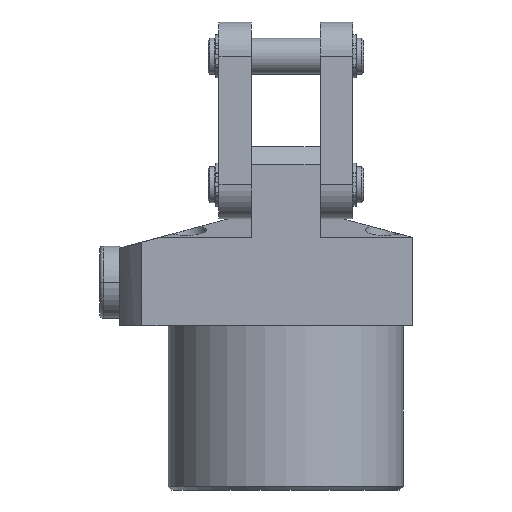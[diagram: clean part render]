
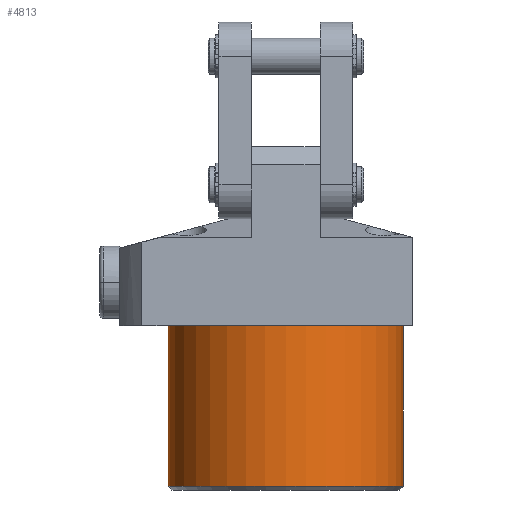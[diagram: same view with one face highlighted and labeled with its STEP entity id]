
A CAD part, front view. The second image highlights one B-rep face of the part: STEP entity #4813.
In plain terms, the highlighted cylindrical face has radius 32.5 mm (diameter 65 mm), a partial arc.
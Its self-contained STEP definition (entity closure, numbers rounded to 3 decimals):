
#732 = LINE ( 'NONE', #2026, #2159 ) ;
#1132 = VERTEX_POINT ( 'NONE', #4381 ) ;
#1339 = DIRECTION ( 'NONE',  ( 0., 0., -1. ) ) ;
#1426 = AXIS2_PLACEMENT_3D ( 'NONE', #1602, #1592, #1552 ) ;
#1450 = AXIS2_PLACEMENT_3D ( 'NONE', #5071, #5125, #5090 ) ;
#1552 = DIRECTION ( 'NONE',  ( 1., 0., 0. ) ) ;
#1592 = DIRECTION ( 'NONE',  ( 0., 0., 1. ) ) ;
#1602 = CARTESIAN_POINT ( 'NONE',  ( 0., 0., 45.5 ) ) ;
#2026 = CARTESIAN_POINT ( 'NONE',  ( 32.5, 0., 45.5 ) ) ;
#2159 = VECTOR ( 'NONE', #1339, 1000. ) ;
#2480 = EDGE_CURVE ( 'NONE', #5215, #5195, #732, .T. ) ;
#2503 = VECTOR ( 'NONE', #3098, 1000. ) ;
#2687 = EDGE_LOOP ( 'NONE', ( #6288, #6277, #5589, #6104 ) ) ;
#2923 = VERTEX_POINT ( 'NONE', #6623 ) ;
#3098 = DIRECTION ( 'NONE',  ( 0., 0., -1. ) ) ;
#3169 = CARTESIAN_POINT ( 'NONE',  ( -32.5, 0., 45.5 ) ) ;
#3723 = CARTESIAN_POINT ( 'NONE',  ( 32.5, 0., 45.5 ) ) ;
#3727 = CARTESIAN_POINT ( 'NONE',  ( 32.5, 0., 1. ) ) ;
#3908 = CIRCLE ( 'NONE', #6516, 32.5 ) ;
#4381 = CARTESIAN_POINT ( 'NONE',  ( -32.5, 0., 45.5 ) ) ;
#4605 = DIRECTION ( 'NONE',  ( 1., 0., 0. ) ) ;
#4618 = DIRECTION ( 'NONE',  ( 0., 0., 1. ) ) ;
#4632 = CARTESIAN_POINT ( 'NONE',  ( 0., 0., 1. ) ) ;
#4813 = ADVANCED_FACE ( 'NONE', ( #7457 ), #7086, .T. ) ;
#5071 = CARTESIAN_POINT ( 'NONE',  ( 0., 0., 45.5 ) ) ;
#5090 = DIRECTION ( 'NONE',  ( -1., 0., 0. ) ) ;
#5125 = DIRECTION ( 'NONE',  ( 0., 0., -1. ) ) ;
#5195 = VERTEX_POINT ( 'NONE', #3727 ) ;
#5215 = VERTEX_POINT ( 'NONE', #3723 ) ;
#5375 = EDGE_CURVE ( 'NONE', #1132, #2923, #5695, .T. ) ;
#5589 = ORIENTED_EDGE ( 'NONE', *, *, #5375, .T. ) ;
#5695 = LINE ( 'NONE', #3169, #2503 ) ;
#6104 = ORIENTED_EDGE ( 'NONE', *, *, #7056, .T. ) ;
#6277 = ORIENTED_EDGE ( 'NONE', *, *, #7380, .F. ) ;
#6288 = ORIENTED_EDGE ( 'NONE', *, *, #2480, .F. ) ;
#6516 = AXIS2_PLACEMENT_3D ( 'NONE', #4632, #4618, #4605 ) ;
#6579 = CIRCLE ( 'NONE', #1426, 32.5 ) ;
#6623 = CARTESIAN_POINT ( 'NONE',  ( -32.5, 0., 1. ) ) ;
#7056 = EDGE_CURVE ( 'NONE', #2923, #5195, #3908, .T. ) ;
#7086 = CYLINDRICAL_SURFACE ( 'NONE', #1450, 32.5 ) ;
#7380 = EDGE_CURVE ( 'NONE', #1132, #5215, #6579, .T. ) ;
#7457 = FACE_OUTER_BOUND ( 'NONE', #2687, .T. ) ;
